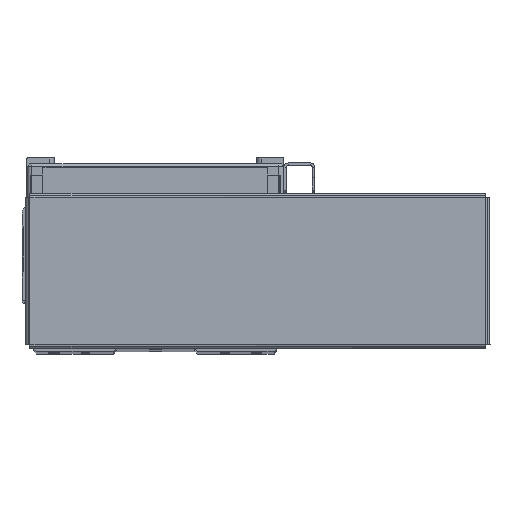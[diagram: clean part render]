
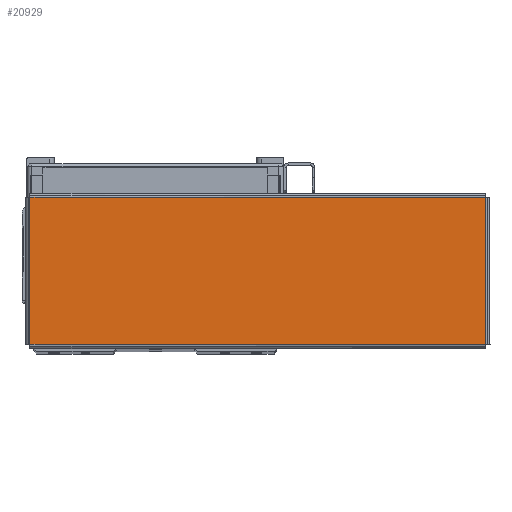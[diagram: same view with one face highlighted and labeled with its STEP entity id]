
A CAD part, top view. The second image highlights one B-rep face of the part: STEP entity #20929.
In plain terms, the highlighted planar face has unit normal (0, 0, 1) as drawn and (0, -1, 0) by its records, which use the part's own axes.
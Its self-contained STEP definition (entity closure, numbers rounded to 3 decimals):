
#6047 = VERTEX_POINT ( 'NONE', #35193 ) ;
#6050 = VERTEX_POINT ( 'NONE', #35161 ) ;
#6052 = VERTEX_POINT ( 'NONE', #35204 ) ;
#6071 = VERTEX_POINT ( 'NONE', #35187 ) ;
#6244 = ORIENTED_EDGE ( 'NONE', *, *, #54715, .T. ) ;
#6254 = ORIENTED_EDGE ( 'NONE', *, *, #54718, .T. ) ;
#6262 = ORIENTED_EDGE ( 'NONE', *, *, #54852, .T. ) ;
#6277 = ORIENTED_EDGE ( 'NONE', *, *, #54666, .T. ) ;
#8163 = EDGE_LOOP ( 'NONE', ( #6244, #6254, #6262, #6277 ) ) ;
#20929 = ADVANCED_FACE ( 'NONE', ( #36701 ), #28265, .F. ) ;
#23001 = AXIS2_PLACEMENT_3D ( 'NONE', #28294, #28302, #28322 ) ;
#28265 = PLANE ( 'NONE',  #23001 ) ;
#28294 = CARTESIAN_POINT ( 'NONE',  ( 0., -1., 0. ) ) ;
#28302 = DIRECTION ( 'NONE',  ( 0., 1., 0. ) ) ;
#28322 = DIRECTION ( 'NONE',  ( 0., 0., 1. ) ) ;
#29205 = VECTOR ( 'NONE', #54060, 1000. ) ;
#29248 = LINE ( 'NONE', #54027, #29205 ) ;
#29269 = LINE ( 'NONE', #54120, #29301 ) ;
#29296 = LINE ( 'NONE', #54126, #29314 ) ;
#29301 = VECTOR ( 'NONE', #54123, 1000. ) ;
#29314 = VECTOR ( 'NONE', #54151, 1000. ) ;
#29319 = VECTOR ( 'NONE', #54448, 1000. ) ;
#29323 = LINE ( 'NONE', #54452, #29319 ) ;
#35161 = CARTESIAN_POINT ( 'NONE',  ( 92.263, -1., 29.763 ) ) ;
#35187 = CARTESIAN_POINT ( 'NONE',  ( -92.263, -1., -29.763 ) ) ;
#35193 = CARTESIAN_POINT ( 'NONE',  ( 92.263, -1., -29.763 ) ) ;
#35204 = CARTESIAN_POINT ( 'NONE',  ( -92.263, -1., 29.763 ) ) ;
#36701 = FACE_OUTER_BOUND ( 'NONE', #8163, .T. ) ;
#54027 = CARTESIAN_POINT ( 'NONE',  ( -92.263, -1., 29.793 ) ) ;
#54060 = DIRECTION ( 'NONE',  ( 0., 0., -1. ) ) ;
#54120 = CARTESIAN_POINT ( 'NONE',  ( 92.263, -1., -29.793 ) ) ;
#54123 = DIRECTION ( 'NONE',  ( 0., 0., 1. ) ) ;
#54126 = CARTESIAN_POINT ( 'NONE',  ( -92.293, -1., -29.763 ) ) ;
#54151 = DIRECTION ( 'NONE',  ( 1., 0., 0. ) ) ;
#54448 = DIRECTION ( 'NONE',  ( -1., 0., 0. ) ) ;
#54452 = CARTESIAN_POINT ( 'NONE',  ( 92.293, -1., 29.763 ) ) ;
#54666 = EDGE_CURVE ( 'NONE', #6052, #6071, #29248, .T. ) ;
#54715 = EDGE_CURVE ( 'NONE', #6071, #6047, #29296, .T. ) ;
#54718 = EDGE_CURVE ( 'NONE', #6047, #6050, #29269, .T. ) ;
#54852 = EDGE_CURVE ( 'NONE', #6050, #6052, #29323, .T. ) ;
